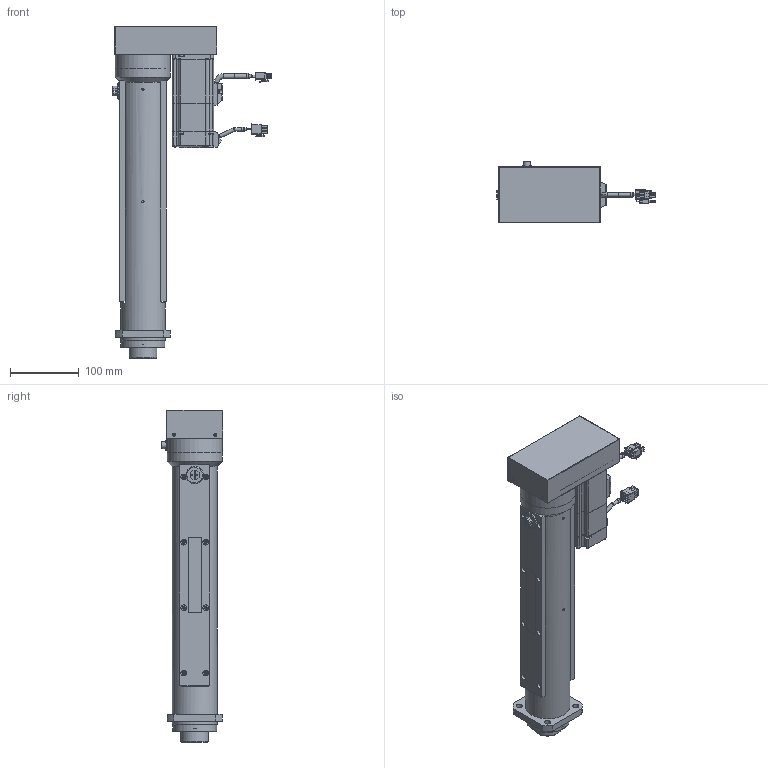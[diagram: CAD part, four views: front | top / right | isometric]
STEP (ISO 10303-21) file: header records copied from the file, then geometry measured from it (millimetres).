
FILE_DESCRIPTION( ('This file contains a STEP AP42 implementation' ,'as created by ZW3D STEP Interface translator.') ,'2;1' );
FILE_NAME( 'OACIS-DC-P001-P002-250-300-A6_V20.02.stp' ,'25 715. 91619', (''), ('ZWCAD Software Co.'), 'Version 1.0', 'ZW3D to STEP translator', '' );
FILE_SCHEMA(('AUTOMOTIVE_DESIGN { 1 0 10303 214 1 1 1 1 }'));
Length unit declared in the file: millimetre
Products named in the file (2): 0; OACIS-DC-P001-P002-250-300-A6_V20.02
Bounding box: 230.44 x 89.7 x 482 mm (x, y, z)
Volume: 1871648.9 mm3; surface area: 499201.5 mm2
Topology: 32 solids, 41 shells, 2068 faces, 5452 edges, 3632 vertices
Faces by surface type: plane 1100, cylinder 590, cone 262, torus 81, sphere 29, bspline 6
Full cylindrical faces by diameter (mm): 1 x17, 1.567 x4, 1.754 x3, 1.755 x1, 1.82 x4, 2 x5, 2.2 x4, 2.5 x8, 2.6 x15, 3.242 x18, 3.3 x33, 3.4 x4, 4 x10, 4.134 x5, 4.2 x4, 4.3 x16, 4.5 x25, 4.917 x1, 5 x3, 5.1 x2, 5.5 x8, 6 x18, 6.5 x4, 6.799 x3, 7 x10, 7.188 x1, 7.8 x1, 8 x18, 9 x5, 9.5 x4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
Entity records: 68822 total; most frequent: CARTESIAN_POINT 14072, DIRECTION 11184, ORIENTED_EDGE 10768, EDGE_CURVE 5384, AXIS2_PLACEMENT_3D 4126, VERTEX_POINT 3632, VECTOR 2932, LINE 2932
